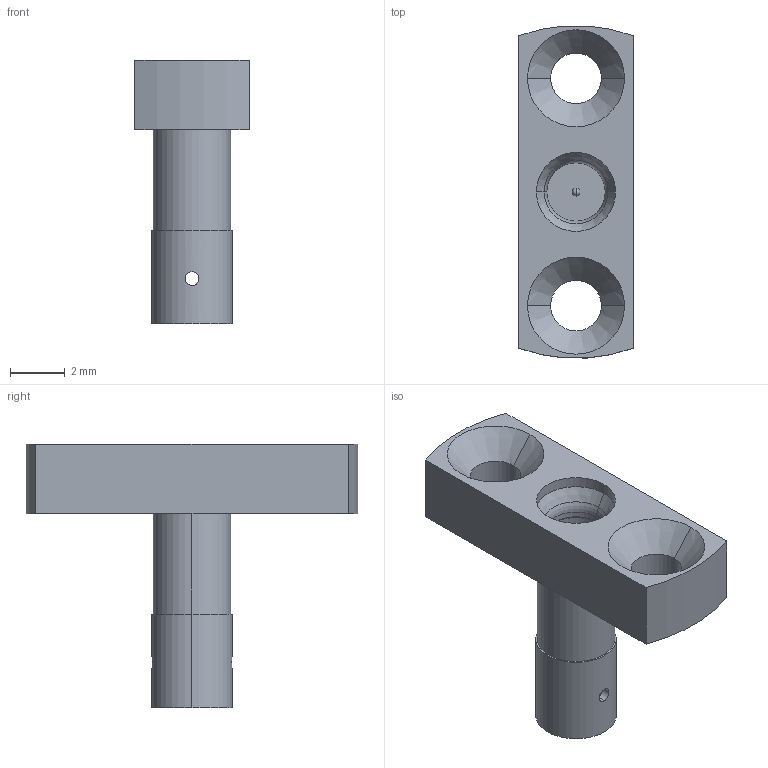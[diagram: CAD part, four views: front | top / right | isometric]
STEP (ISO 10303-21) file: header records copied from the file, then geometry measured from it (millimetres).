
FILE_DESCRIPTION (( 'STEP AP214' ), '1' );
FILE_NAME ('SF3211-60013.STEP', '2015-11-12T13:30:43', ( '' ), ( '' ), 'SwSTEP 2.0', 'SolidWorks 2015', '' );
FILE_SCHEMA (( 'AUTOMOTIVE_DESIGN' ));
Length unit declared in the file: inch
Products named in the file (1): SF3211-60013
Bounding box: 4.19 x 12.16 x 9.65 mm (x, y, z)
Volume: 134.4 mm3; surface area: 291.4 mm2
Topology: 1 solids, 1 shells, 46 faces, 104 edges, 63 vertices
Faces by surface type: cylinder 24, cone 10, plane 8, sphere 2, torus 2
Entity records: 1977 total; most frequent: CARTESIAN_POINT 284, DIRECTION 242, ORIENTED_EDGE 204, EDGE_CURVE 102, AXIS2_PLACEMENT_3D 101, VERTEX_POINT 63, EDGE_LOOP 59, CIRCLE 54
